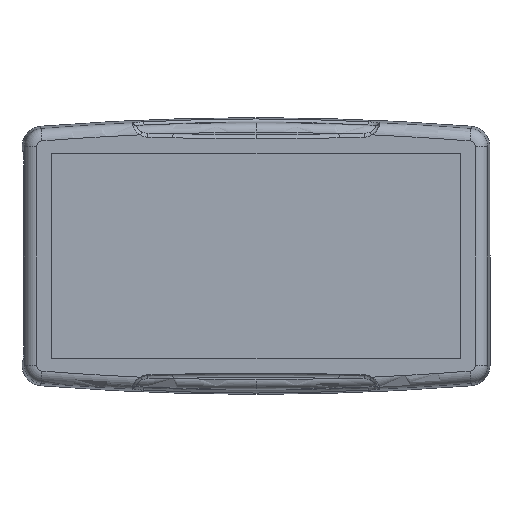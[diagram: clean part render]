
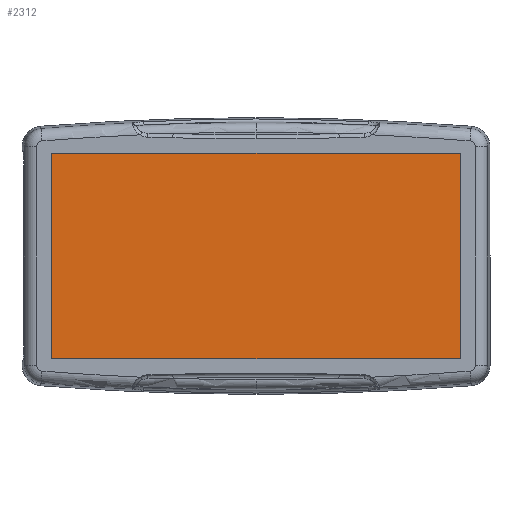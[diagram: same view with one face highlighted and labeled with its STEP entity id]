
A CAD part, front view. The second image highlights one B-rep face of the part: STEP entity #2312.
In plain terms, the highlighted planar face has unit normal (0, -1, 0).
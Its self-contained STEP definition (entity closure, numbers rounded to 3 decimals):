
#480 = VERTEX_POINT ( 'NONE', #22601 ) ;
#673 = DIRECTION ( 'NONE',  ( 0., 0., 1. ) ) ;
#692 = CARTESIAN_POINT ( 'NONE',  ( 50.193, -11., 25.193 ) ) ;
#1675 = DIRECTION ( 'NONE',  ( 1., 0., 0. ) ) ;
#2312 = ADVANCED_FACE ( 'NONE', ( #17216 ), #10300, .T. ) ;
#2368 = VECTOR ( 'NONE', #1675, 1000. ) ;
#2376 = ORIENTED_EDGE ( 'NONE', *, *, #7305, .T. ) ;
#3177 = DIRECTION ( 'NONE',  ( 0., 0., -1. ) ) ;
#3566 = VERTEX_POINT ( 'NONE', #692 ) ;
#3806 = VECTOR ( 'NONE', #21807, 1000. ) ;
#5591 = CARTESIAN_POINT ( 'NONE',  ( 50.193, -11., -25.193 ) ) ;
#5808 = CARTESIAN_POINT ( 'NONE',  ( -50.193, -11., -25.2 ) ) ;
#6027 = VECTOR ( 'NONE', #673, 1000. ) ;
#6475 = LINE ( 'NONE', #11377, #19517 ) ;
#6919 = ORIENTED_EDGE ( 'NONE', *, *, #23006, .T. ) ;
#7305 = EDGE_CURVE ( 'NONE', #3566, #480, #6475, .T. ) ;
#7694 = LINE ( 'NONE', #19414, #2368 ) ;
#7776 = CARTESIAN_POINT ( 'NONE',  ( -50.193, -11., -25.193 ) ) ;
#7883 = VERTEX_POINT ( 'NONE', #5591 ) ;
#9369 = AXIS2_PLACEMENT_3D ( 'NONE', #12090, #13884, #3177 ) ;
#10300 = PLANE ( 'NONE',  #9369 ) ;
#11377 = CARTESIAN_POINT ( 'NONE',  ( 50.2, -11., 25.193 ) ) ;
#11869 = LINE ( 'NONE', #21987, #6027 ) ;
#12090 = CARTESIAN_POINT ( 'NONE',  ( 50.2, -11., -25.2 ) ) ;
#13246 = DIRECTION ( 'NONE',  ( -1., 0., 0. ) ) ;
#13884 = DIRECTION ( 'NONE',  ( 0., -1., 0. ) ) ;
#15631 = EDGE_LOOP ( 'NONE', ( #6919, #2376, #18772, #16767 ) ) ;
#16662 = VERTEX_POINT ( 'NONE', #7776 ) ;
#16767 = ORIENTED_EDGE ( 'NONE', *, *, #18418, .T. ) ;
#16881 = LINE ( 'NONE', #5808, #3806 ) ;
#17216 = FACE_OUTER_BOUND ( 'NONE', #15631, .T. ) ;
#18418 = EDGE_CURVE ( 'NONE', #16662, #7883, #7694, .T. ) ;
#18772 = ORIENTED_EDGE ( 'NONE', *, *, #21990, .T. ) ;
#19414 = CARTESIAN_POINT ( 'NONE',  ( 50.2, -11., -25.193 ) ) ;
#19517 = VECTOR ( 'NONE', #13246, 1000. ) ;
#21807 = DIRECTION ( 'NONE',  ( 0., 0., -1. ) ) ;
#21987 = CARTESIAN_POINT ( 'NONE',  ( 50.193, -11., -25.2 ) ) ;
#21990 = EDGE_CURVE ( 'NONE', #480, #16662, #16881, .T. ) ;
#22601 = CARTESIAN_POINT ( 'NONE',  ( -50.193, -11., 25.193 ) ) ;
#23006 = EDGE_CURVE ( 'NONE', #7883, #3566, #11869, .T. ) ;
